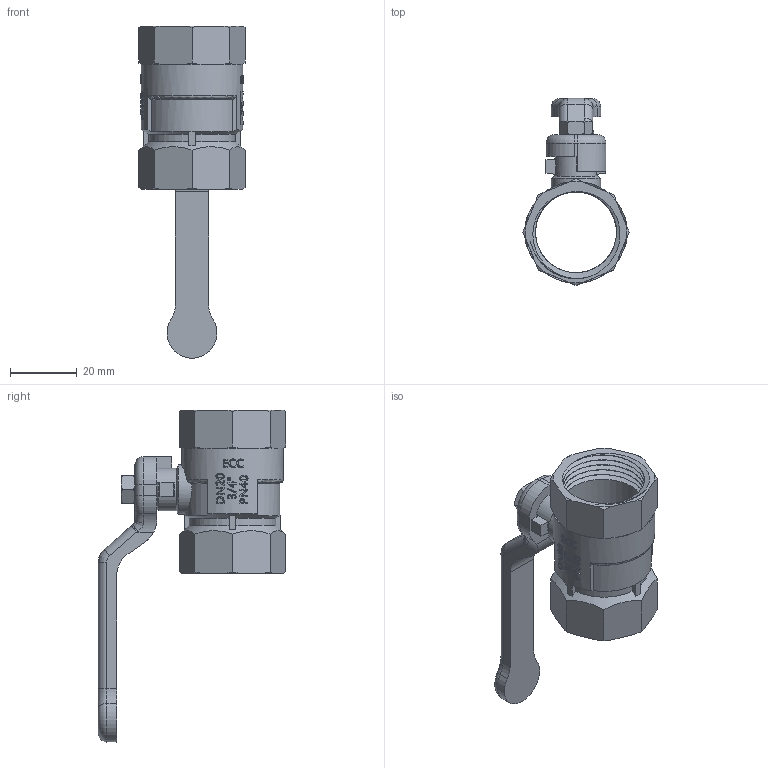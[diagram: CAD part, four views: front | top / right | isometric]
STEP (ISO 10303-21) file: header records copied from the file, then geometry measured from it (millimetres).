
FILE_DESCRIPTION(/* description */ (''),/* implementation_level */ '2;1');
FILE_NAME(/* name */ 'H:\Мишенин_3D\Исходные файлы 3D\VT.090.N.05.stp',/* time_stamp */ '2018-01-17T10:19:12+03:00',/* author */ ('MisheninAL'),/* organization */ (''),/* preprocessor_version */ 'ST-DEVELOPER v16.13',/* originating_system */ 'Autodesk Inventor 2018',/* authorisation */ '');
FILE_SCHEMA (('AUTOMOTIVE_DESIGN { 1 0 10303 214 3 1 1 }'));
Length unit declared in the file: millimetre
Products named in the file (1): VT.090_ВB_3%4
Bounding box: 31.93 x 56.22 x 99.63 mm (x, y, z)
Volume: 17900.3 mm3; surface area: 14594.7 mm2
Topology: 1 solids, 1 shells, 448 faces, 1185 edges, 774 vertices
Faces by surface type: plane 186, bspline 128, cylinder 74, cone 49, torus 11
Full cylindrical faces by diameter (mm): 12.772 x1, 14.772 x1, 24.3 x9, 30.5 x1
Entity records: 20443 total; most frequent: CARTESIAN_POINT 10509, ORIENTED_EDGE 2286, DIRECTION 1713, EDGE_CURVE 1143, VERTEX_POINT 749, AXIS2_PLACEMENT_3D 596, LINE 521, VECTOR 521
